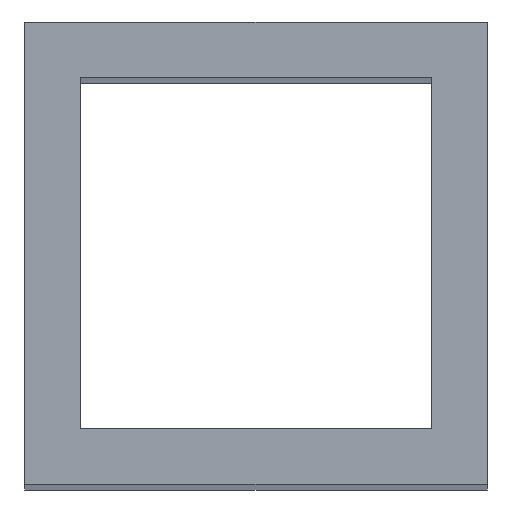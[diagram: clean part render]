
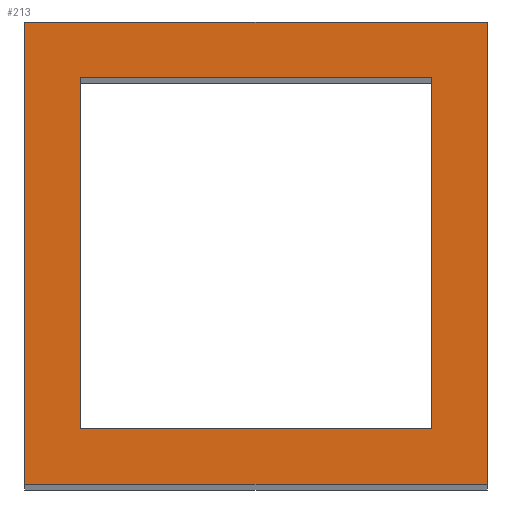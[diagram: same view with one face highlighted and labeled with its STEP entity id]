
A CAD part, top view. The second image highlights one B-rep face of the part: STEP entity #213.
In plain terms, the highlighted planar face has unit normal (0, 0, 1).
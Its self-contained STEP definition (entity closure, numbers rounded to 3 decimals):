
#24 = VERTEX_POINT('',#25);
#25 = CARTESIAN_POINT('',(-622.5,277.5,175.));
#32 = PLANE('',#33);
#33 = AXIS2_PLACEMENT_3D('',#34,#35,#36);
#34 = CARTESIAN_POINT('',(-622.5,277.5,4.));
#35 = DIRECTION('',(1.,0.,-0.));
#36 = DIRECTION('',(0.,0.,1.));
#44 = PLANE('',#45);
#45 = AXIS2_PLACEMENT_3D('',#46,#47,#48);
#46 = CARTESIAN_POINT('',(-622.5,277.5,4.));
#47 = DIRECTION('',(-0.,1.,0.));
#48 = DIRECTION('',(0.,0.,1.));
#85 = VERTEX_POINT('',#86);
#86 = CARTESIAN_POINT('',(-622.5,302.5,175.));
#100 = PLANE('',#101);
#101 = AXIS2_PLACEMENT_3D('',#102,#103,#104);
#102 = CARTESIAN_POINT('',(-622.5,302.5,4.));
#103 = DIRECTION('',(-0.,1.,0.));
#104 = DIRECTION('',(0.,0.,1.));
#112 = EDGE_CURVE('',#24,#85,#113,.T.);
#113 = SURFACE_CURVE('',#114,(#118,#125),.PCURVE_S1.);
#114 = LINE('',#115,#116);
#115 = CARTESIAN_POINT('',(-622.5,277.5,175.));
#116 = VECTOR('',#117,1.);
#117 = DIRECTION('',(-0.,1.,0.));
#118 = PCURVE('',#32,#119);
#119 = DEFINITIONAL_REPRESENTATION('',(#120),#124);
#120 = LINE('',#121,#122);
#121 = CARTESIAN_POINT('',(171.,0.));
#122 = VECTOR('',#123,1.);
#123 = DIRECTION('',(0.,-1.));
#124 = ( GEOMETRIC_REPRESENTATION_CONTEXT(2) 
PARAMETRIC_REPRESENTATION_CONTEXT() REPRESENTATION_CONTEXT('2D SPACE',''
  ) );
#125 = PCURVE('',#126,#131);
#126 = PLANE('',#127);
#127 = AXIS2_PLACEMENT_3D('',#128,#129,#130);
#128 = CARTESIAN_POINT('',(-622.5,277.5,175.));
#129 = DIRECTION('',(0.,0.,1.));
#130 = DIRECTION('',(1.,0.,-0.));
#131 = DEFINITIONAL_REPRESENTATION('',(#132),#136);
#132 = LINE('',#133,#134);
#133 = CARTESIAN_POINT('',(0.,0.));
#134 = VECTOR('',#135,1.);
#135 = DIRECTION('',(0.,1.));
#136 = ( GEOMETRIC_REPRESENTATION_CONTEXT(2) 
PARAMETRIC_REPRESENTATION_CONTEXT() REPRESENTATION_CONTEXT('2D SPACE',''
  ) );
#165 = EDGE_CURVE('',#24,#166,#168,.T.);
#166 = VERTEX_POINT('',#167);
#167 = CARTESIAN_POINT('',(-597.5,277.5,175.));
#168 = SURFACE_CURVE('',#169,(#173,#180),.PCURVE_S1.);
#169 = LINE('',#170,#171);
#170 = CARTESIAN_POINT('',(-622.5,277.5,175.));
#171 = VECTOR('',#172,1.);
#172 = DIRECTION('',(1.,0.,-0.));
#173 = PCURVE('',#44,#174);
#174 = DEFINITIONAL_REPRESENTATION('',(#175),#179);
#175 = LINE('',#176,#177);
#176 = CARTESIAN_POINT('',(171.,0.));
#177 = VECTOR('',#178,1.);
#178 = DIRECTION('',(0.,1.));
#179 = ( GEOMETRIC_REPRESENTATION_CONTEXT(2) 
PARAMETRIC_REPRESENTATION_CONTEXT() REPRESENTATION_CONTEXT('2D SPACE',''
  ) );
#180 = PCURVE('',#126,#181);
#181 = DEFINITIONAL_REPRESENTATION('',(#182),#186);
#182 = LINE('',#183,#184);
#183 = CARTESIAN_POINT('',(0.,0.));
#184 = VECTOR('',#185,1.);
#185 = DIRECTION('',(1.,0.));
#186 = ( GEOMETRIC_REPRESENTATION_CONTEXT(2) 
PARAMETRIC_REPRESENTATION_CONTEXT() REPRESENTATION_CONTEXT('2D SPACE',''
  ) );
#202 = PLANE('',#203);
#203 = AXIS2_PLACEMENT_3D('',#204,#205,#206);
#204 = CARTESIAN_POINT('',(-597.5,277.5,4.));
#205 = DIRECTION('',(1.,0.,-0.));
#206 = DIRECTION('',(0.,0.,1.));
#213 = ADVANCED_FACE('',(#214,#262),#126,.T.);
#214 = FACE_BOUND('',#215,.T.);
#215 = EDGE_LOOP('',(#216,#217,#218,#241));
#216 = ORIENTED_EDGE('',*,*,#112,.F.);
#217 = ORIENTED_EDGE('',*,*,#165,.T.);
#218 = ORIENTED_EDGE('',*,*,#219,.T.);
#219 = EDGE_CURVE('',#166,#220,#222,.T.);
#220 = VERTEX_POINT('',#221);
#221 = CARTESIAN_POINT('',(-597.5,302.5,175.));
#222 = SURFACE_CURVE('',#223,(#227,#234),.PCURVE_S1.);
#223 = LINE('',#224,#225);
#224 = CARTESIAN_POINT('',(-597.5,277.5,175.));
#225 = VECTOR('',#226,1.);
#226 = DIRECTION('',(-0.,1.,0.));
#227 = PCURVE('',#126,#228);
#228 = DEFINITIONAL_REPRESENTATION('',(#229),#233);
#229 = LINE('',#230,#231);
#230 = CARTESIAN_POINT('',(25.,0.));
#231 = VECTOR('',#232,1.);
#232 = DIRECTION('',(0.,1.));
#233 = ( GEOMETRIC_REPRESENTATION_CONTEXT(2) 
PARAMETRIC_REPRESENTATION_CONTEXT() REPRESENTATION_CONTEXT('2D SPACE',''
  ) );
#234 = PCURVE('',#202,#235);
#235 = DEFINITIONAL_REPRESENTATION('',(#236),#240);
#236 = LINE('',#237,#238);
#237 = CARTESIAN_POINT('',(171.,0.));
#238 = VECTOR('',#239,1.);
#239 = DIRECTION('',(0.,-1.));
#240 = ( GEOMETRIC_REPRESENTATION_CONTEXT(2) 
PARAMETRIC_REPRESENTATION_CONTEXT() REPRESENTATION_CONTEXT('2D SPACE',''
  ) );
#241 = ORIENTED_EDGE('',*,*,#242,.F.);
#242 = EDGE_CURVE('',#85,#220,#243,.T.);
#243 = SURFACE_CURVE('',#244,(#248,#255),.PCURVE_S1.);
#244 = LINE('',#245,#246);
#245 = CARTESIAN_POINT('',(-622.5,302.5,175.));
#246 = VECTOR('',#247,1.);
#247 = DIRECTION('',(1.,0.,-0.));
#248 = PCURVE('',#126,#249);
#249 = DEFINITIONAL_REPRESENTATION('',(#250),#254);
#250 = LINE('',#251,#252);
#251 = CARTESIAN_POINT('',(0.,25.));
#252 = VECTOR('',#253,1.);
#253 = DIRECTION('',(1.,0.));
#254 = ( GEOMETRIC_REPRESENTATION_CONTEXT(2) 
PARAMETRIC_REPRESENTATION_CONTEXT() REPRESENTATION_CONTEXT('2D SPACE',''
  ) );
#255 = PCURVE('',#100,#256);
#256 = DEFINITIONAL_REPRESENTATION('',(#257),#261);
#257 = LINE('',#258,#259);
#258 = CARTESIAN_POINT('',(171.,0.));
#259 = VECTOR('',#260,1.);
#260 = DIRECTION('',(0.,1.));
#261 = ( GEOMETRIC_REPRESENTATION_CONTEXT(2) 
PARAMETRIC_REPRESENTATION_CONTEXT() REPRESENTATION_CONTEXT('2D SPACE',''
  ) );
#262 = FACE_BOUND('',#263,.T.);
#263 = EDGE_LOOP('',(#264,#292,#318,#344));
#264 = ORIENTED_EDGE('',*,*,#265,.T.);
#265 = EDGE_CURVE('',#266,#268,#270,.T.);
#266 = VERTEX_POINT('',#267);
#267 = CARTESIAN_POINT('',(-600.5,280.5,175.));
#268 = VERTEX_POINT('',#269);
#269 = CARTESIAN_POINT('',(-619.5,280.5,175.));
#270 = SURFACE_CURVE('',#271,(#275,#281),.PCURVE_S1.);
#271 = LINE('',#272,#273);
#272 = CARTESIAN_POINT('',(-621.,280.5,175.));
#273 = VECTOR('',#274,1.);
#274 = DIRECTION('',(-1.,-0.,0.));
#275 = PCURVE('',#126,#276);
#276 = DEFINITIONAL_REPRESENTATION('',(#277),#280);
#277 = B_SPLINE_CURVE_WITH_KNOTS('',1,(#278,#279),.UNSPECIFIED.,.F.,.F.,
  (2,2),(-20.5,-1.5),.PIECEWISE_BEZIER_KNOTS.);
#278 = CARTESIAN_POINT('',(22.,3.));
#279 = CARTESIAN_POINT('',(3.,3.));
#280 = ( GEOMETRIC_REPRESENTATION_CONTEXT(2) 
PARAMETRIC_REPRESENTATION_CONTEXT() REPRESENTATION_CONTEXT('2D SPACE',''
  ) );
#281 = PCURVE('',#282,#287);
#282 = PLANE('',#283);
#283 = AXIS2_PLACEMENT_3D('',#284,#285,#286);
#284 = CARTESIAN_POINT('',(-619.5,280.5,3.));
#285 = DIRECTION('',(-0.,1.,0.));
#286 = DIRECTION('',(0.,0.,1.));
#287 = DEFINITIONAL_REPRESENTATION('',(#288),#291);
#288 = B_SPLINE_CURVE_WITH_KNOTS('',1,(#289,#290),.UNSPECIFIED.,.F.,.F.,
  (2,2),(-20.5,-1.5),.PIECEWISE_BEZIER_KNOTS.);
#289 = CARTESIAN_POINT('',(172.,19.));
#290 = CARTESIAN_POINT('',(172.,0.));
#291 = ( GEOMETRIC_REPRESENTATION_CONTEXT(2) 
PARAMETRIC_REPRESENTATION_CONTEXT() REPRESENTATION_CONTEXT('2D SPACE',''
  ) );
#292 = ORIENTED_EDGE('',*,*,#293,.T.);
#293 = EDGE_CURVE('',#268,#294,#296,.T.);
#294 = VERTEX_POINT('',#295);
#295 = CARTESIAN_POINT('',(-619.5,299.5,175.));
#296 = SURFACE_CURVE('',#297,(#301,#307),.PCURVE_S1.);
#297 = LINE('',#298,#299);
#298 = CARTESIAN_POINT('',(-619.5,279.,175.));
#299 = VECTOR('',#300,1.);
#300 = DIRECTION('',(-0.,1.,0.));
#301 = PCURVE('',#126,#302);
#302 = DEFINITIONAL_REPRESENTATION('',(#303),#306);
#303 = B_SPLINE_CURVE_WITH_KNOTS('',1,(#304,#305),.UNSPECIFIED.,.F.,.F.,
  (2,2),(1.5,20.5),.PIECEWISE_BEZIER_KNOTS.);
#304 = CARTESIAN_POINT('',(3.,3.));
#305 = CARTESIAN_POINT('',(3.,22.));
#306 = ( GEOMETRIC_REPRESENTATION_CONTEXT(2) 
PARAMETRIC_REPRESENTATION_CONTEXT() REPRESENTATION_CONTEXT('2D SPACE',''
  ) );
#307 = PCURVE('',#308,#313);
#308 = PLANE('',#309);
#309 = AXIS2_PLACEMENT_3D('',#310,#311,#312);
#310 = CARTESIAN_POINT('',(-619.5,280.5,3.));
#311 = DIRECTION('',(1.,0.,-0.));
#312 = DIRECTION('',(0.,0.,1.));
#313 = DEFINITIONAL_REPRESENTATION('',(#314),#317);
#314 = B_SPLINE_CURVE_WITH_KNOTS('',1,(#315,#316),.UNSPECIFIED.,.F.,.F.,
  (2,2),(1.5,20.5),.PIECEWISE_BEZIER_KNOTS.);
#315 = CARTESIAN_POINT('',(172.,0.));
#316 = CARTESIAN_POINT('',(172.,-19.));
#317 = ( GEOMETRIC_REPRESENTATION_CONTEXT(2) 
PARAMETRIC_REPRESENTATION_CONTEXT() REPRESENTATION_CONTEXT('2D SPACE',''
  ) );
#318 = ORIENTED_EDGE('',*,*,#319,.F.);
#319 = EDGE_CURVE('',#320,#294,#322,.T.);
#320 = VERTEX_POINT('',#321);
#321 = CARTESIAN_POINT('',(-600.5,299.5,175.));
#322 = SURFACE_CURVE('',#323,(#327,#333),.PCURVE_S1.);
#323 = LINE('',#324,#325);
#324 = CARTESIAN_POINT('',(-621.,299.5,175.));
#325 = VECTOR('',#326,1.);
#326 = DIRECTION('',(-1.,-0.,0.));
#327 = PCURVE('',#126,#328);
#328 = DEFINITIONAL_REPRESENTATION('',(#329),#332);
#329 = B_SPLINE_CURVE_WITH_KNOTS('',1,(#330,#331),.UNSPECIFIED.,.F.,.F.,
  (2,2),(-20.5,-1.5),.PIECEWISE_BEZIER_KNOTS.);
#330 = CARTESIAN_POINT('',(22.,22.));
#331 = CARTESIAN_POINT('',(3.,22.));
#332 = ( GEOMETRIC_REPRESENTATION_CONTEXT(2) 
PARAMETRIC_REPRESENTATION_CONTEXT() REPRESENTATION_CONTEXT('2D SPACE',''
  ) );
#333 = PCURVE('',#334,#339);
#334 = PLANE('',#335);
#335 = AXIS2_PLACEMENT_3D('',#336,#337,#338);
#336 = CARTESIAN_POINT('',(-619.5,299.5,3.));
#337 = DIRECTION('',(-0.,1.,0.));
#338 = DIRECTION('',(0.,0.,1.));
#339 = DEFINITIONAL_REPRESENTATION('',(#340),#343);
#340 = B_SPLINE_CURVE_WITH_KNOTS('',1,(#341,#342),.UNSPECIFIED.,.F.,.F.,
  (2,2),(-20.5,-1.5),.PIECEWISE_BEZIER_KNOTS.);
#341 = CARTESIAN_POINT('',(172.,19.));
#342 = CARTESIAN_POINT('',(172.,0.));
#343 = ( GEOMETRIC_REPRESENTATION_CONTEXT(2) 
PARAMETRIC_REPRESENTATION_CONTEXT() REPRESENTATION_CONTEXT('2D SPACE',''
  ) );
#344 = ORIENTED_EDGE('',*,*,#345,.F.);
#345 = EDGE_CURVE('',#266,#320,#346,.T.);
#346 = SURFACE_CURVE('',#347,(#351,#357),.PCURVE_S1.);
#347 = LINE('',#348,#349);
#348 = CARTESIAN_POINT('',(-600.5,279.,175.));
#349 = VECTOR('',#350,1.);
#350 = DIRECTION('',(-0.,1.,0.));
#351 = PCURVE('',#126,#352);
#352 = DEFINITIONAL_REPRESENTATION('',(#353),#356);
#353 = B_SPLINE_CURVE_WITH_KNOTS('',1,(#354,#355),.UNSPECIFIED.,.F.,.F.,
  (2,2),(1.5,20.5),.PIECEWISE_BEZIER_KNOTS.);
#354 = CARTESIAN_POINT('',(22.,3.));
#355 = CARTESIAN_POINT('',(22.,22.));
#356 = ( GEOMETRIC_REPRESENTATION_CONTEXT(2) 
PARAMETRIC_REPRESENTATION_CONTEXT() REPRESENTATION_CONTEXT('2D SPACE',''
  ) );
#357 = PCURVE('',#358,#363);
#358 = PLANE('',#359);
#359 = AXIS2_PLACEMENT_3D('',#360,#361,#362);
#360 = CARTESIAN_POINT('',(-600.5,280.5,3.));
#361 = DIRECTION('',(1.,0.,-0.));
#362 = DIRECTION('',(0.,0.,1.));
#363 = DEFINITIONAL_REPRESENTATION('',(#364),#367);
#364 = B_SPLINE_CURVE_WITH_KNOTS('',1,(#365,#366),.UNSPECIFIED.,.F.,.F.,
  (2,2),(1.5,20.5),.PIECEWISE_BEZIER_KNOTS.);
#365 = CARTESIAN_POINT('',(172.,0.));
#366 = CARTESIAN_POINT('',(172.,-19.));
#367 = ( GEOMETRIC_REPRESENTATION_CONTEXT(2) 
PARAMETRIC_REPRESENTATION_CONTEXT() REPRESENTATION_CONTEXT('2D SPACE',''
  ) );
